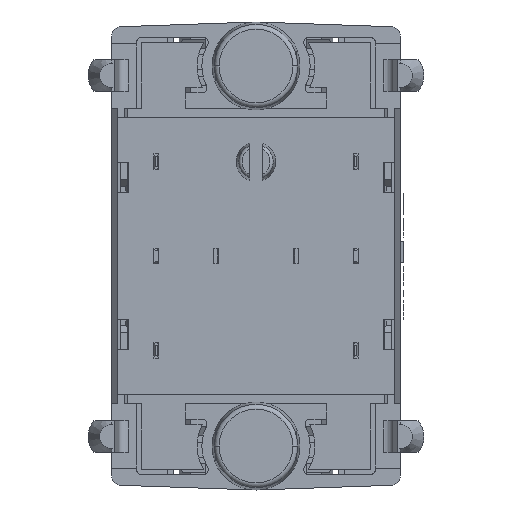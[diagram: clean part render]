
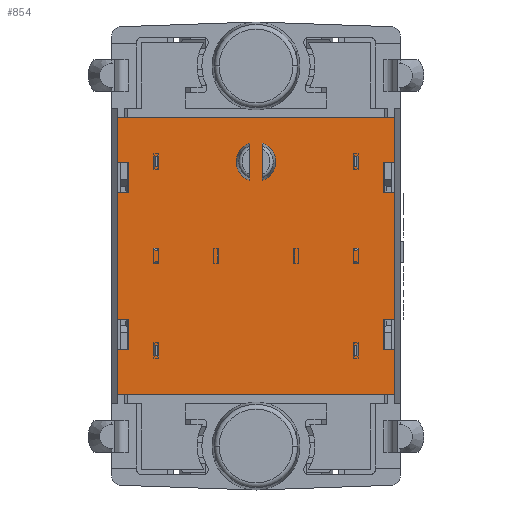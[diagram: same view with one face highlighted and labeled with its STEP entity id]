
A CAD part, front view. The second image highlights one B-rep face of the part: STEP entity #854.
In plain terms, the highlighted planar face has unit normal (0, -1, 0).
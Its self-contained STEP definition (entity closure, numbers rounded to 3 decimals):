
#1=DIRECTION('',(0.,0.,1.));
#2=VECTOR('',#1,1.95);
#3=CARTESIAN_POINT('',(8.15,-1.,-5.975));
#4=LINE('',#3,#2);
#5=DIRECTION('',(1.,0.,0.));
#6=VECTOR('',#5,0.65);
#7=CARTESIAN_POINT('',(8.15,-1.,-5.975));
#8=LINE('',#7,#6);
#9=DIRECTION('',(0.,0.,1.));
#10=VECTOR('',#9,2.825);
#11=CARTESIAN_POINT('',(8.8,-1.,-8.8));
#12=LINE('',#11,#10);
#13=DIRECTION('',(1.,0.,0.));
#14=VECTOR('',#13,17.6);
#15=CARTESIAN_POINT('',(-8.8,-1.,-8.8));
#16=LINE('',#15,#14);
#17=DIRECTION('',(0.,0.,-1.));
#18=VECTOR('',#17,2.825);
#19=CARTESIAN_POINT('',(-8.8,-1.,-5.975));
#20=LINE('',#19,#18);
#21=DIRECTION('',(1.,0.,0.));
#22=VECTOR('',#21,0.65);
#23=CARTESIAN_POINT('',(-8.8,-1.,-5.975));
#24=LINE('',#23,#22);
#25=DIRECTION('',(0.,0.,-1.));
#26=VECTOR('',#25,1.95);
#27=CARTESIAN_POINT('',(-8.15,-1.,-4.025));
#28=LINE('',#27,#26);
#29=DIRECTION('',(-1.,0.,0.));
#30=VECTOR('',#29,0.65);
#31=CARTESIAN_POINT('',(-8.15,-1.,-4.025));
#32=LINE('',#31,#30);
#33=DIRECTION('',(0.,0.,-1.));
#34=VECTOR('',#33,8.05);
#35=CARTESIAN_POINT('',(-8.8,-1.,4.025));
#36=LINE('',#35,#34);
#37=DIRECTION('',(1.,0.,0.));
#38=VECTOR('',#37,0.65);
#39=CARTESIAN_POINT('',(-8.8,-1.,4.025));
#40=LINE('',#39,#38);
#41=DIRECTION('',(0.,0.,-1.));
#42=VECTOR('',#41,1.95);
#43=CARTESIAN_POINT('',(-8.15,-1.,5.975));
#44=LINE('',#43,#42);
#45=DIRECTION('',(-1.,0.,0.));
#46=VECTOR('',#45,0.65);
#47=CARTESIAN_POINT('',(-8.15,-1.,5.975));
#48=LINE('',#47,#46);
#49=DIRECTION('',(0.,0.,-1.));
#50=VECTOR('',#49,2.825);
#51=CARTESIAN_POINT('',(-8.8,-1.,8.8));
#52=LINE('',#51,#50);
#53=DIRECTION('',(-1.,0.,0.));
#54=VECTOR('',#53,17.6);
#55=CARTESIAN_POINT('',(8.8,-1.,8.8));
#56=LINE('',#55,#54);
#57=DIRECTION('',(0.,0.,1.));
#58=VECTOR('',#57,2.825);
#59=CARTESIAN_POINT('',(8.8,-1.,5.975));
#60=LINE('',#59,#58);
#61=DIRECTION('',(-1.,0.,0.));
#62=VECTOR('',#61,0.65);
#63=CARTESIAN_POINT('',(8.8,-1.,5.975));
#64=LINE('',#63,#62);
#65=DIRECTION('',(0.,0.,1.));
#66=VECTOR('',#65,1.95);
#67=CARTESIAN_POINT('',(8.15,-1.,4.025));
#68=LINE('',#67,#66);
#69=DIRECTION('',(1.,0.,0.));
#70=VECTOR('',#69,0.65);
#71=CARTESIAN_POINT('',(8.15,-1.,4.025));
#72=LINE('',#71,#70);
#73=DIRECTION('',(0.,0.,1.));
#74=VECTOR('',#73,8.05);
#75=CARTESIAN_POINT('',(8.8,-1.,-4.025));
#76=LINE('',#75,#74);
#77=DIRECTION('',(-1.,0.,0.));
#78=VECTOR('',#77,0.65);
#79=CARTESIAN_POINT('',(8.8,-1.,-4.025));
#80=LINE('',#79,#78);
#583=CARTESIAN_POINT('',(-8.8,-1.,-8.8));
#584=CARTESIAN_POINT('',(8.8,-1.,-8.8));
#585=VERTEX_POINT('',#583);
#586=VERTEX_POINT('',#584);
#587=CARTESIAN_POINT('',(8.8,-1.,8.8));
#588=CARTESIAN_POINT('',(-8.8,-1.,8.8));
#589=VERTEX_POINT('',#587);
#590=VERTEX_POINT('',#588);
#615=CARTESIAN_POINT('',(8.15,-1.,-5.975));
#616=CARTESIAN_POINT('',(8.15,-1.,-4.025));
#617=VERTEX_POINT('',#615);
#618=VERTEX_POINT('',#616);
#619=CARTESIAN_POINT('',(8.8,-1.,-4.025));
#620=VERTEX_POINT('',#619);
#621=CARTESIAN_POINT('',(8.8,-1.,-5.975));
#622=VERTEX_POINT('',#621);
#623=CARTESIAN_POINT('',(8.15,-1.,4.025));
#624=CARTESIAN_POINT('',(8.15,-1.,5.975));
#625=VERTEX_POINT('',#623);
#626=VERTEX_POINT('',#624);
#627=CARTESIAN_POINT('',(8.8,-1.,5.975));
#628=VERTEX_POINT('',#627);
#629=CARTESIAN_POINT('',(8.8,-1.,4.025));
#630=VERTEX_POINT('',#629);
#631=CARTESIAN_POINT('',(-8.8,-1.,4.025));
#632=CARTESIAN_POINT('',(-8.15,-1.,4.025));
#633=VERTEX_POINT('',#631);
#634=VERTEX_POINT('',#632);
#635=CARTESIAN_POINT('',(-8.8,-1.,5.975));
#636=CARTESIAN_POINT('',(-8.15,-1.,5.975));
#637=VERTEX_POINT('',#635);
#638=VERTEX_POINT('',#636);
#639=CARTESIAN_POINT('',(-8.8,-1.,-5.975));
#640=CARTESIAN_POINT('',(-8.15,-1.,-5.975));
#641=VERTEX_POINT('',#639);
#642=VERTEX_POINT('',#640);
#643=CARTESIAN_POINT('',(-8.8,-1.,-4.025));
#644=CARTESIAN_POINT('',(-8.15,-1.,-4.025));
#645=VERTEX_POINT('',#643);
#646=VERTEX_POINT('',#644);
#807=CARTESIAN_POINT('',(0.,-1.,0.));
#808=DIRECTION('',(0.,-1.,0.));
#809=DIRECTION('',(1.,0.,0.));
#810=AXIS2_PLACEMENT_3D('',#807,#808,#809);
#811=PLANE('',#810);
#813=ORIENTED_EDGE('',*,*,#812,.F.);
#815=ORIENTED_EDGE('',*,*,#814,.T.);
#817=ORIENTED_EDGE('',*,*,#816,.F.);
#819=ORIENTED_EDGE('',*,*,#818,.F.);
#821=ORIENTED_EDGE('',*,*,#820,.F.);
#823=ORIENTED_EDGE('',*,*,#822,.T.);
#825=ORIENTED_EDGE('',*,*,#824,.F.);
#827=ORIENTED_EDGE('',*,*,#826,.T.);
#829=ORIENTED_EDGE('',*,*,#828,.F.);
#831=ORIENTED_EDGE('',*,*,#830,.T.);
#833=ORIENTED_EDGE('',*,*,#832,.F.);
#835=ORIENTED_EDGE('',*,*,#834,.T.);
#837=ORIENTED_EDGE('',*,*,#836,.F.);
#839=ORIENTED_EDGE('',*,*,#838,.F.);
#841=ORIENTED_EDGE('',*,*,#840,.F.);
#843=ORIENTED_EDGE('',*,*,#842,.T.);
#845=ORIENTED_EDGE('',*,*,#844,.F.);
#847=ORIENTED_EDGE('',*,*,#846,.T.);
#849=ORIENTED_EDGE('',*,*,#848,.F.);
#851=ORIENTED_EDGE('',*,*,#850,.T.);
#852=EDGE_LOOP('',(#813,#815,#817,#819,#821,#823,#825,#827,#829,#831,#833,#835,
#837,#839,#841,#843,#845,#847,#849,#851));
#853=FACE_OUTER_BOUND('',#852,.F.);
#854=ADVANCED_FACE('',(#853),#811,.T.);
#812=EDGE_CURVE('',#617,#618,#4,.T.);
#814=EDGE_CURVE('',#617,#622,#8,.T.);
#816=EDGE_CURVE('',#586,#622,#12,.T.);
#818=EDGE_CURVE('',#585,#586,#16,.T.);
#820=EDGE_CURVE('',#641,#585,#20,.T.);
#822=EDGE_CURVE('',#641,#642,#24,.T.);
#824=EDGE_CURVE('',#646,#642,#28,.T.);
#826=EDGE_CURVE('',#646,#645,#32,.T.);
#828=EDGE_CURVE('',#633,#645,#36,.T.);
#830=EDGE_CURVE('',#633,#634,#40,.T.);
#832=EDGE_CURVE('',#638,#634,#44,.T.);
#834=EDGE_CURVE('',#638,#637,#48,.T.);
#836=EDGE_CURVE('',#590,#637,#52,.T.);
#838=EDGE_CURVE('',#589,#590,#56,.T.);
#840=EDGE_CURVE('',#628,#589,#60,.T.);
#842=EDGE_CURVE('',#628,#626,#64,.T.);
#844=EDGE_CURVE('',#625,#626,#68,.T.);
#846=EDGE_CURVE('',#625,#630,#72,.T.);
#848=EDGE_CURVE('',#620,#630,#76,.T.);
#850=EDGE_CURVE('',#620,#618,#80,.T.);
